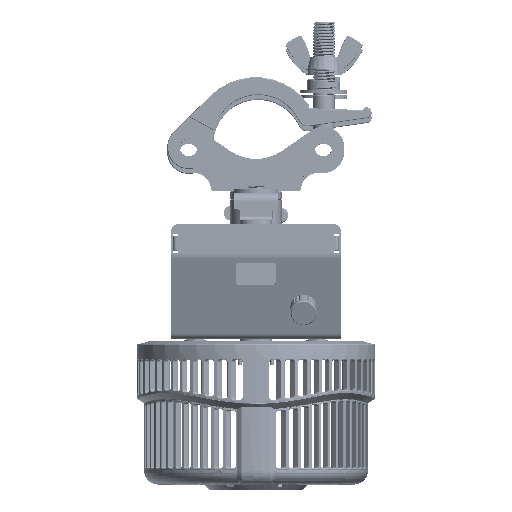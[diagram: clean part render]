
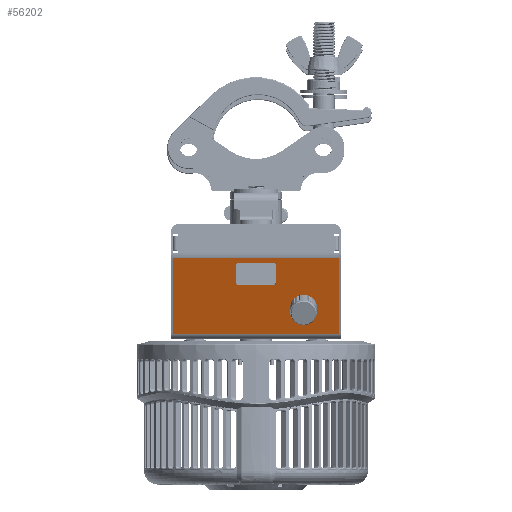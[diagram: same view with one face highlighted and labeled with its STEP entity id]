
A CAD part, top view. The second image highlights one B-rep face of the part: STEP entity #56202.
In plain terms, the highlighted planar face has unit normal (0, -0.342, 0.94) as drawn and (-0.94, -0.342, 0) by its records, which use the part's own axes.
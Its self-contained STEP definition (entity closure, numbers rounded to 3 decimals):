
#252 = CARTESIAN_POINT ( 'NONE',  ( -75.032, 25.461, -9.95 ) ) ;
#1547 = CARTESIAN_POINT ( 'NONE',  ( -65.209, -1.528, 46. ) ) ;
#3057 = EDGE_CURVE ( 'NONE', #246938, #37268, #203679, .T. ) ;
#4586 = VECTOR ( 'NONE', #208103, 1000. ) ;
#4618 = AXIS2_PLACEMENT_3D ( 'NONE', #68668, #25124, #167612 ) ;
#7146 = CIRCLE ( 'NONE', #154645, 1. ) ;
#12670 = CARTESIAN_POINT ( 'NONE',  ( -75.375, 26.401, 9.95 ) ) ;
#13607 = AXIS2_PLACEMENT_3D ( 'NONE', #1547, #257685, #182431 ) ;
#16974 = LINE ( 'NONE', #94942, #24424 ) ;
#17078 = CARTESIAN_POINT ( 'NONE',  ( -79.616, 38.053, 9.95 ) ) ;
#21936 = LINE ( 'NONE', #124884, #140515 ) ;
#23319 = LINE ( 'NONE', #86676, #4586 ) ;
#23471 = EDGE_LOOP ( 'NONE', ( #234743, #213695, #87568, #108938 ) ) ;
#24424 = VECTOR ( 'NONE', #197879, 1000. ) ;
#25124 = DIRECTION ( 'NONE',  ( -0.94, -0.342, 0. ) ) ;
#33981 = DIRECTION ( 'NONE',  ( 0.342, -0.94, 0. ) ) ;
#37075 = EDGE_CURVE ( 'NONE', #243138, #107802, #49831, .T. ) ;
#37268 = VERTEX_POINT ( 'NONE', #257527 ) ;
#37890 = CARTESIAN_POINT ( 'NONE',  ( -65.209, -1.528, 46. ) ) ;
#38915 = EDGE_CURVE ( 'NONE', #205775, #60385, #16974, .T. ) ;
#39497 = CARTESIAN_POINT ( 'NONE',  ( -80.487, 40.448, 46. ) ) ;
#41137 = CARTESIAN_POINT ( 'NONE',  ( -79.274, 37.113, -9.95 ) ) ;
#49831 = LINE ( 'NONE', #151304, #166124 ) ;
#52344 = ORIENTED_EDGE ( 'NONE', *, *, #38915, .F. ) ;
#56202 = ADVANCED_FACE ( 'NONE', ( #199634, #241795, #97983 ), #78226, .F. ) ;
#56974 = AXIS2_PLACEMENT_3D ( 'NONE', #57092, #241764, #178464 ) ;
#57092 = CARTESIAN_POINT ( 'NONE',  ( -70.997, 14.373, 26.5 ) ) ;
#57188 = CIRCLE ( 'NONE', #124601, 1. ) ;
#57812 = CARTESIAN_POINT ( 'NONE',  ( -65.209, -1.528, -46. ) ) ;
#57949 = CARTESIAN_POINT ( 'NONE',  ( -75.375, 26.401, 10.95 ) ) ;
#60385 = VERTEX_POINT ( 'NONE', #144062 ) ;
#61049 = CARTESIAN_POINT ( 'NONE',  ( -75.032, 25.461, 9.95 ) ) ;
#63700 = CIRCLE ( 'NONE', #4618, 4. ) ;
#68668 = CARTESIAN_POINT ( 'NONE',  ( -70.997, 14.373, 26.5 ) ) ;
#68727 = DIRECTION ( 'NONE',  ( 0., 0., -1. ) ) ;
#71058 = DIRECTION ( 'NONE',  ( 0., 0., -1. ) ) ;
#72646 = LINE ( 'NONE', #236266, #209433 ) ;
#73525 = ORIENTED_EDGE ( 'NONE', *, *, #3057, .T. ) ;
#75924 = EDGE_LOOP ( 'NONE', ( #76553, #151452, #52344, #157672, #223309, #73525, #95274, #76314 ) ) ;
#76314 = ORIENTED_EDGE ( 'NONE', *, *, #120167, .T. ) ;
#76553 = ORIENTED_EDGE ( 'NONE', *, *, #37075, .F. ) ;
#78226 = PLANE ( 'NONE',  #13607 ) ;
#85827 = EDGE_CURVE ( 'NONE', #205775, #102356, #231488, .T. ) ;
#86676 = CARTESIAN_POINT ( 'NONE',  ( -79.616, 38.053, -10.95 ) ) ;
#87568 = ORIENTED_EDGE ( 'NONE', *, *, #93974, .F. ) ;
#89686 = ORIENTED_EDGE ( 'NONE', *, *, #179451, .F. ) ;
#91417 = DIRECTION ( 'NONE',  ( -0.342, 0.94, 0. ) ) ;
#93974 = EDGE_CURVE ( 'NONE', #172948, #127970, #134285, .T. ) ;
#94942 = CARTESIAN_POINT ( 'NONE',  ( -79.616, 38.053, -10.95 ) ) ;
#95274 = ORIENTED_EDGE ( 'NONE', *, *, #170926, .F. ) ;
#97983 = FACE_OUTER_BOUND ( 'NONE', #23471, .T. ) ;
#101107 = CARTESIAN_POINT ( 'NONE',  ( -79.274, 37.113, -10.95 ) ) ;
#102356 = VERTEX_POINT ( 'NONE', #226347 ) ;
#106572 = EDGE_LOOP ( 'NONE', ( #111590, #89686 ) ) ;
#107802 = VERTEX_POINT ( 'NONE', #61049 ) ;
#108938 = ORIENTED_EDGE ( 'NONE', *, *, #239160, .T. ) ;
#111225 = EDGE_CURVE ( 'NONE', #131783, #260059, #187549, .T. ) ;
#111590 = ORIENTED_EDGE ( 'NONE', *, *, #111225, .F. ) ;
#111690 = DIRECTION ( 'NONE',  ( -0.342, 0.94, 0. ) ) ;
#113965 = CARTESIAN_POINT ( 'NONE',  ( -72.365, 18.131, 26.5 ) ) ;
#120167 = EDGE_CURVE ( 'NONE', #178701, #107802, #7146, .T. ) ;
#120640 = LINE ( 'NONE', #249488, #160135 ) ;
#124601 = AXIS2_PLACEMENT_3D ( 'NONE', #154642, #216723, #91417 ) ;
#124884 = CARTESIAN_POINT ( 'NONE',  ( -79.616, 38.053, 10.95 ) ) ;
#126170 = DIRECTION ( 'NONE',  ( -0.342, 0.94, 0. ) ) ;
#127970 = VERTEX_POINT ( 'NONE', #234082 ) ;
#131783 = VERTEX_POINT ( 'NONE', #195490 ) ;
#132868 = DIRECTION ( 'NONE',  ( 0., 0., 1. ) ) ;
#134285 = LINE ( 'NONE', #37890, #183773 ) ;
#134468 = EDGE_CURVE ( 'NONE', #220673, #225274, #72646, .T. ) ;
#135587 = VECTOR ( 'NONE', #71058, 1000. ) ;
#135939 = DIRECTION ( 'NONE',  ( 0.342, -0.94, 0. ) ) ;
#140515 = VECTOR ( 'NONE', #126170, 1000. ) ;
#144062 = CARTESIAN_POINT ( 'NONE',  ( -75.375, 26.401, -10.95 ) ) ;
#151304 = CARTESIAN_POINT ( 'NONE',  ( -75.032, 25.461, -10.95 ) ) ;
#151452 = ORIENTED_EDGE ( 'NONE', *, *, #206252, .T. ) ;
#154642 = CARTESIAN_POINT ( 'NONE',  ( -75.375, 26.401, -9.95 ) ) ;
#154645 = AXIS2_PLACEMENT_3D ( 'NONE', #12670, #252871, #111690 ) ;
#155383 = CARTESIAN_POINT ( 'NONE',  ( -65.209, -1.528, 46. ) ) ;
#157672 = ORIENTED_EDGE ( 'NONE', *, *, #85827, .T. ) ;
#160135 = VECTOR ( 'NONE', #68727, 1000. ) ;
#166124 = VECTOR ( 'NONE', #132868, 1000. ) ;
#167612 = DIRECTION ( 'NONE',  ( 0.342, -0.94, 0. ) ) ;
#170926 = EDGE_CURVE ( 'NONE', #178701, #37268, #21936, .T. ) ;
#172948 = VERTEX_POINT ( 'NONE', #39497 ) ;
#174643 = EDGE_CURVE ( 'NONE', #127970, #225274, #214887, .T. ) ;
#178464 = DIRECTION ( 'NONE',  ( 0.342, -0.94, 0. ) ) ;
#178701 = VERTEX_POINT ( 'NONE', #57949 ) ;
#179451 = EDGE_CURVE ( 'NONE', #260059, #131783, #63700, .T. ) ;
#182431 = DIRECTION ( 'NONE',  ( -0.342, 0.94, 0. ) ) ;
#183773 = VECTOR ( 'NONE', #33981, 1000. ) ;
#187549 = CIRCLE ( 'NONE', #56974, 4. ) ;
#189822 = DIRECTION ( 'NONE',  ( -0.342, 0.94, 0. ) ) ;
#191043 = AXIS2_PLACEMENT_3D ( 'NONE', #220689, #193746, #189822 ) ;
#193746 = DIRECTION ( 'NONE',  ( 0.94, 0.342, 0. ) ) ;
#195490 = CARTESIAN_POINT ( 'NONE',  ( -69.629, 10.614, 26.5 ) ) ;
#197879 = DIRECTION ( 'NONE',  ( 0.342, -0.94, 0. ) ) ;
#198566 = CARTESIAN_POINT ( 'NONE',  ( -80.487, 40.448, -46. ) ) ;
#199634 = FACE_BOUND ( 'NONE', #106572, .T. ) ;
#203679 = CIRCLE ( 'NONE', #191043, 1. ) ;
#205775 = VERTEX_POINT ( 'NONE', #101107 ) ;
#206252 = EDGE_CURVE ( 'NONE', #243138, #60385, #57188, .T. ) ;
#208103 = DIRECTION ( 'NONE',  ( 0., 0., -1. ) ) ;
#209433 = VECTOR ( 'NONE', #135939, 1000. ) ;
#213695 = ORIENTED_EDGE ( 'NONE', *, *, #174643, .F. ) ;
#214887 = LINE ( 'NONE', #155383, #135587 ) ;
#216723 = DIRECTION ( 'NONE',  ( 0.94, 0.342, 0. ) ) ;
#220673 = VERTEX_POINT ( 'NONE', #198566 ) ;
#220689 = CARTESIAN_POINT ( 'NONE',  ( -79.274, 37.113, 9.95 ) ) ;
#223309 = ORIENTED_EDGE ( 'NONE', *, *, #257057, .F. ) ;
#225274 = VERTEX_POINT ( 'NONE', #57812 ) ;
#226347 = CARTESIAN_POINT ( 'NONE',  ( -79.616, 38.053, -9.95 ) ) ;
#227120 = DIRECTION ( 'NONE',  ( -0.342, 0.94, 0. ) ) ;
#231488 = CIRCLE ( 'NONE', #235803, 1. ) ;
#234082 = CARTESIAN_POINT ( 'NONE',  ( -65.209, -1.528, 46. ) ) ;
#234743 = ORIENTED_EDGE ( 'NONE', *, *, #134468, .T. ) ;
#235803 = AXIS2_PLACEMENT_3D ( 'NONE', #41137, #244302, #227120 ) ;
#236266 = CARTESIAN_POINT ( 'NONE',  ( -65.209, -1.528, -46. ) ) ;
#239160 = EDGE_CURVE ( 'NONE', #172948, #220673, #120640, .T. ) ;
#241764 = DIRECTION ( 'NONE',  ( -0.94, -0.342, 0. ) ) ;
#241795 = FACE_BOUND ( 'NONE', #75924, .T. ) ;
#243138 = VERTEX_POINT ( 'NONE', #252 ) ;
#244302 = DIRECTION ( 'NONE',  ( 0.94, 0.342, 0. ) ) ;
#246938 = VERTEX_POINT ( 'NONE', #17078 ) ;
#249488 = CARTESIAN_POINT ( 'NONE',  ( -80.487, 40.448, 46. ) ) ;
#252871 = DIRECTION ( 'NONE',  ( 0.94, 0.342, 0. ) ) ;
#257057 = EDGE_CURVE ( 'NONE', #246938, #102356, #23319, .T. ) ;
#257527 = CARTESIAN_POINT ( 'NONE',  ( -79.274, 37.113, 10.95 ) ) ;
#257685 = DIRECTION ( 'NONE',  ( 0.94, 0.342, 0. ) ) ;
#260059 = VERTEX_POINT ( 'NONE', #113965 ) ;
